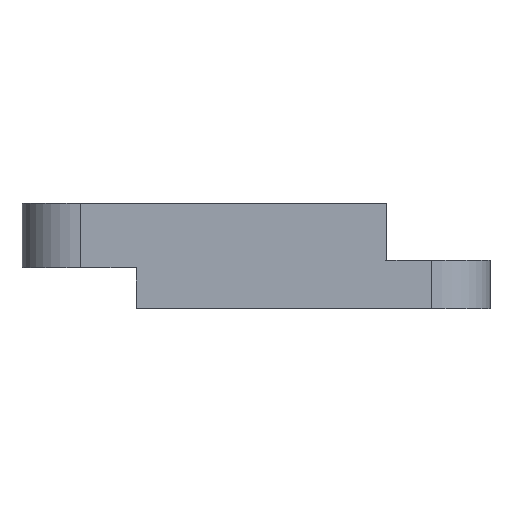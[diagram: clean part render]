
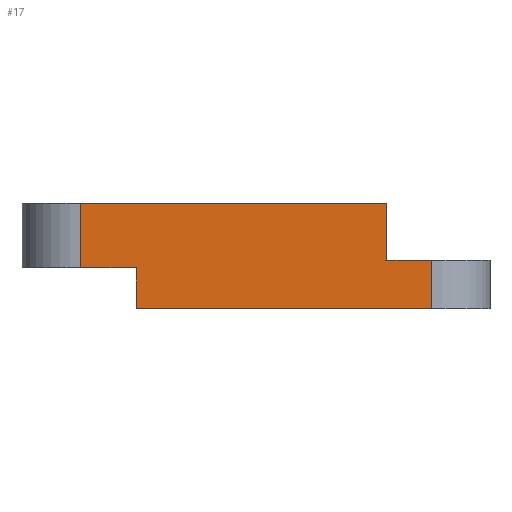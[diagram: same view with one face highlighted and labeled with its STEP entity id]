
A CAD part, left-side view. The second image highlights one B-rep face of the part: STEP entity #17.
In plain terms, the highlighted planar face has unit normal (-1, 0, 0).
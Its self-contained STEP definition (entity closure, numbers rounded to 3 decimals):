
#17 = ADVANCED_FACE('',(#18),#32,.F.);
#18 = FACE_BOUND('',#19,.F.);
#19 = EDGE_LOOP('',(#20,#55,#81,#107,#135,#163,#189,#215));
#20 = ORIENTED_EDGE('',*,*,#21,.F.);
#21 = EDGE_CURVE('',#22,#24,#26,.T.);
#22 = VERTEX_POINT('',#23);
#23 = CARTESIAN_POINT('',(-10.,-21.962,11.2));
#24 = VERTEX_POINT('',#25);
#25 = CARTESIAN_POINT('',(-10.,-11.488,11.2));
#26 = SURFACE_CURVE('',#27,(#31,#43),.PCURVE_S1.);
#27 = LINE('',#28,#29);
#28 = CARTESIAN_POINT('',(-10.,-25.488,11.2));
#29 = VECTOR('',#30,1.);
#30 = DIRECTION('',(0.,1.,0.));
#31 = PCURVE('',#32,#37);
#32 = PLANE('',#33);
#33 = AXIS2_PLACEMENT_3D('',#34,#35,#36);
#34 = CARTESIAN_POINT('',(-10.,-25.488,7.6));
#35 = DIRECTION('',(1.,0.,0.));
#36 = DIRECTION('',(0.,0.,1.));
#37 = DEFINITIONAL_REPRESENTATION('',(#38),#42);
#38 = LINE('',#39,#40);
#39 = CARTESIAN_POINT('',(3.6,0.));
#40 = VECTOR('',#41,1.);
#41 = DIRECTION('',(0.,-1.));
#42 = ( GEOMETRIC_REPRESENTATION_CONTEXT(2) 
PARAMETRIC_REPRESENTATION_CONTEXT() REPRESENTATION_CONTEXT('2D SPACE',''
  ) );
#43 = PCURVE('',#44,#49);
#44 = PLANE('',#45);
#45 = AXIS2_PLACEMENT_3D('',#46,#47,#48);
#46 = CARTESIAN_POINT('',(-10.,-25.488,11.2));
#47 = DIRECTION('',(0.,0.,1.));
#48 = DIRECTION('',(1.,0.,0.));
#49 = DEFINITIONAL_REPRESENTATION('',(#50),#54);
#50 = LINE('',#51,#52);
#51 = CARTESIAN_POINT('',(0.,0.));
#52 = VECTOR('',#53,1.);
#53 = DIRECTION('',(0.,1.));
#54 = ( GEOMETRIC_REPRESENTATION_CONTEXT(2) 
PARAMETRIC_REPRESENTATION_CONTEXT() REPRESENTATION_CONTEXT('2D SPACE',''
  ) );
#55 = ORIENTED_EDGE('',*,*,#56,.T.);
#56 = EDGE_CURVE('',#22,#57,#59,.T.);
#57 = VERTEX_POINT('',#58);
#58 = CARTESIAN_POINT('',(-10.,-21.962,9.25));
#59 = SURFACE_CURVE('',#60,(#64,#70),.PCURVE_S1.);
#60 = LINE('',#61,#62);
#61 = CARTESIAN_POINT('',(-10.,-21.962,9.25));
#62 = VECTOR('',#63,1.);
#63 = DIRECTION('',(-0.,-0.,-1.));
#64 = PCURVE('',#32,#65);
#65 = DEFINITIONAL_REPRESENTATION('',(#66),#69);
#66 = B_SPLINE_CURVE_WITH_KNOTS('',1,(#67,#68),.UNSPECIFIED.,.F.,.F.,(2,
    2),(-2.2,0.),.PIECEWISE_BEZIER_KNOTS.);
#67 = CARTESIAN_POINT('',(3.85,-3.526));
#68 = CARTESIAN_POINT('',(1.65,-3.526));
#69 = ( GEOMETRIC_REPRESENTATION_CONTEXT(2) 
PARAMETRIC_REPRESENTATION_CONTEXT() REPRESENTATION_CONTEXT('2D SPACE',''
  ) );
#70 = PCURVE('',#71,#76);
#71 = CYLINDRICAL_SURFACE('',#72,18.9);
#72 = AXIS2_PLACEMENT_3D('',#73,#74,#75);
#73 = CARTESIAN_POINT('',(0.,-38.,9.25));
#74 = DIRECTION('',(-0.,-0.,-1.));
#75 = DIRECTION('',(1.,0.,0.));
#76 = DEFINITIONAL_REPRESENTATION('',(#77),#80);
#77 = B_SPLINE_CURVE_WITH_KNOTS('',1,(#78,#79),.UNSPECIFIED.,.F.,.F.,(2,
    2),(-2.2,0.),.PIECEWISE_BEZIER_KNOTS.);
#78 = CARTESIAN_POINT('',(-2.128,-2.2));
#79 = CARTESIAN_POINT('',(-2.128,0.));
#80 = ( GEOMETRIC_REPRESENTATION_CONTEXT(2) 
PARAMETRIC_REPRESENTATION_CONTEXT() REPRESENTATION_CONTEXT('2D SPACE',''
  ) );
#81 = ORIENTED_EDGE('',*,*,#82,.T.);
#82 = EDGE_CURVE('',#57,#83,#85,.T.);
#83 = VERTEX_POINT('',#84);
#84 = CARTESIAN_POINT('',(-10.,-23.488,9.25));
#85 = SURFACE_CURVE('',#86,(#90,#96),.PCURVE_S1.);
#86 = LINE('',#87,#88);
#87 = CARTESIAN_POINT('',(-10.,-31.744,9.25));
#88 = VECTOR('',#89,1.);
#89 = DIRECTION('',(0.,-1.,0.));
#90 = PCURVE('',#32,#91);
#91 = DEFINITIONAL_REPRESENTATION('',(#92),#95);
#92 = B_SPLINE_CURVE_WITH_KNOTS('',1,(#93,#94),.UNSPECIFIED.,.F.,.F.,(2,
    2),(-12.644,-8.256),.PIECEWISE_BEZIER_KNOTS.);
#93 = CARTESIAN_POINT('',(1.65,-6.388));
#94 = CARTESIAN_POINT('',(1.65,-2.));
#95 = ( GEOMETRIC_REPRESENTATION_CONTEXT(2) 
PARAMETRIC_REPRESENTATION_CONTEXT() REPRESENTATION_CONTEXT('2D SPACE',''
  ) );
#96 = PCURVE('',#97,#102);
#97 = PLANE('',#98);
#98 = AXIS2_PLACEMENT_3D('',#99,#100,#101);
#99 = CARTESIAN_POINT('',(0.,-38.,9.25));
#100 = DIRECTION('',(0.,0.,1.));
#101 = DIRECTION('',(1.,0.,-0.));
#102 = DEFINITIONAL_REPRESENTATION('',(#103),#106);
#103 = B_SPLINE_CURVE_WITH_KNOTS('',1,(#104,#105),.UNSPECIFIED.,.F.,.F.,
  (2,2),(-12.644,-8.256),.PIECEWISE_BEZIER_KNOTS.);
#104 = CARTESIAN_POINT('',(-10.,18.9));
#105 = CARTESIAN_POINT('',(-10.,14.512));
#106 = ( GEOMETRIC_REPRESENTATION_CONTEXT(2) 
PARAMETRIC_REPRESENTATION_CONTEXT() REPRESENTATION_CONTEXT('2D SPACE',''
  ) );
#107 = ORIENTED_EDGE('',*,*,#108,.F.);
#108 = EDGE_CURVE('',#109,#83,#111,.T.);
#109 = VERTEX_POINT('',#110);
#110 = CARTESIAN_POINT('',(-10.,-23.488,7.6));
#111 = SURFACE_CURVE('',#112,(#116,#123),.PCURVE_S1.);
#112 = LINE('',#113,#114);
#113 = CARTESIAN_POINT('',(-10.,-23.488,7.6));
#114 = VECTOR('',#115,1.);
#115 = DIRECTION('',(0.,0.,1.));
#116 = PCURVE('',#32,#117);
#117 = DEFINITIONAL_REPRESENTATION('',(#118),#122);
#118 = LINE('',#119,#120);
#119 = CARTESIAN_POINT('',(0.,-2.));
#120 = VECTOR('',#121,1.);
#121 = DIRECTION('',(1.,0.));
#122 = ( GEOMETRIC_REPRESENTATION_CONTEXT(2) 
PARAMETRIC_REPRESENTATION_CONTEXT() REPRESENTATION_CONTEXT('2D SPACE',''
  ) );
#123 = PCURVE('',#124,#129);
#124 = CYLINDRICAL_SURFACE('',#125,2.);
#125 = AXIS2_PLACEMENT_3D('',#126,#127,#128);
#126 = CARTESIAN_POINT('',(-8.,-23.488,7.6));
#127 = DIRECTION('',(0.,0.,1.));
#128 = DIRECTION('',(-1.,-0.,0.));
#129 = DEFINITIONAL_REPRESENTATION('',(#130),#134);
#130 = LINE('',#131,#132);
#131 = CARTESIAN_POINT('',(0.,0.));
#132 = VECTOR('',#133,1.);
#133 = DIRECTION('',(0.,1.));
#134 = ( GEOMETRIC_REPRESENTATION_CONTEXT(2) 
PARAMETRIC_REPRESENTATION_CONTEXT() REPRESENTATION_CONTEXT('2D SPACE',''
  ) );
#135 = ORIENTED_EDGE('',*,*,#136,.T.);
#136 = EDGE_CURVE('',#109,#137,#139,.T.);
#137 = VERTEX_POINT('',#138);
#138 = CARTESIAN_POINT('',(-10.,-13.4,7.6));
#139 = SURFACE_CURVE('',#140,(#144,#151),.PCURVE_S1.);
#140 = LINE('',#141,#142);
#141 = CARTESIAN_POINT('',(-10.,-25.488,7.6));
#142 = VECTOR('',#143,1.);
#143 = DIRECTION('',(0.,1.,0.));
#144 = PCURVE('',#32,#145);
#145 = DEFINITIONAL_REPRESENTATION('',(#146),#150);
#146 = LINE('',#147,#148);
#147 = CARTESIAN_POINT('',(0.,0.));
#148 = VECTOR('',#149,1.);
#149 = DIRECTION('',(0.,-1.));
#150 = ( GEOMETRIC_REPRESENTATION_CONTEXT(2) 
PARAMETRIC_REPRESENTATION_CONTEXT() REPRESENTATION_CONTEXT('2D SPACE',''
  ) );
#151 = PCURVE('',#152,#157);
#152 = PLANE('',#153);
#153 = AXIS2_PLACEMENT_3D('',#154,#155,#156);
#154 = CARTESIAN_POINT('',(-10.,-25.488,7.6));
#155 = DIRECTION('',(0.,0.,1.));
#156 = DIRECTION('',(1.,0.,0.));
#157 = DEFINITIONAL_REPRESENTATION('',(#158),#162);
#158 = LINE('',#159,#160);
#159 = CARTESIAN_POINT('',(0.,0.));
#160 = VECTOR('',#161,1.);
#161 = DIRECTION('',(0.,1.));
#162 = ( GEOMETRIC_REPRESENTATION_CONTEXT(2) 
PARAMETRIC_REPRESENTATION_CONTEXT() REPRESENTATION_CONTEXT('2D SPACE',''
  ) );
#163 = ORIENTED_EDGE('',*,*,#164,.T.);
#164 = EDGE_CURVE('',#137,#165,#167,.T.);
#165 = VERTEX_POINT('',#166);
#166 = CARTESIAN_POINT('',(-10.,-13.4,9.));
#167 = SURFACE_CURVE('',#168,(#172,#178),.PCURVE_S1.);
#168 = LINE('',#169,#170);
#169 = CARTESIAN_POINT('',(-10.,-13.4,3.8));
#170 = VECTOR('',#171,1.);
#171 = DIRECTION('',(0.,0.,1.));
#172 = PCURVE('',#32,#173);
#173 = DEFINITIONAL_REPRESENTATION('',(#174),#177);
#174 = B_SPLINE_CURVE_WITH_KNOTS('',1,(#175,#176),.UNSPECIFIED.,.F.,.F.,
  (2,2),(3.8,5.2),.PIECEWISE_BEZIER_KNOTS.);
#175 = CARTESIAN_POINT('',(0.,-12.088));
#176 = CARTESIAN_POINT('',(1.4,-12.088));
#177 = ( GEOMETRIC_REPRESENTATION_CONTEXT(2) 
PARAMETRIC_REPRESENTATION_CONTEXT() REPRESENTATION_CONTEXT('2D SPACE',''
  ) );
#178 = PCURVE('',#179,#184);
#179 = PLANE('',#180);
#180 = AXIS2_PLACEMENT_3D('',#181,#182,#183);
#181 = CARTESIAN_POINT('',(-31.5,-13.4,0.));
#182 = DIRECTION('',(0.,1.,0.));
#183 = DIRECTION('',(0.,0.,1.));
#184 = DEFINITIONAL_REPRESENTATION('',(#185),#188);
#185 = B_SPLINE_CURVE_WITH_KNOTS('',1,(#186,#187),.UNSPECIFIED.,.F.,.F.,
  (2,2),(3.8,5.2),.PIECEWISE_BEZIER_KNOTS.);
#186 = CARTESIAN_POINT('',(7.6,21.5));
#187 = CARTESIAN_POINT('',(9.,21.5));
#188 = ( GEOMETRIC_REPRESENTATION_CONTEXT(2) 
PARAMETRIC_REPRESENTATION_CONTEXT() REPRESENTATION_CONTEXT('2D SPACE',''
  ) );
#189 = ORIENTED_EDGE('',*,*,#190,.F.);
#190 = EDGE_CURVE('',#191,#165,#193,.T.);
#191 = VERTEX_POINT('',#192);
#192 = CARTESIAN_POINT('',(-10.,-11.488,9.));
#193 = SURFACE_CURVE('',#194,(#198,#204),.PCURVE_S1.);
#194 = LINE('',#195,#196);
#195 = CARTESIAN_POINT('',(-10.,-19.444,9.));
#196 = VECTOR('',#197,1.);
#197 = DIRECTION('',(0.,-1.,0.));
#198 = PCURVE('',#32,#199);
#199 = DEFINITIONAL_REPRESENTATION('',(#200),#203);
#200 = B_SPLINE_CURVE_WITH_KNOTS('',1,(#201,#202),.UNSPECIFIED.,.F.,.F.,
  (2,2),(-7.956,-6.044),.PIECEWISE_BEZIER_KNOTS.);
#201 = CARTESIAN_POINT('',(1.4,-14.));
#202 = CARTESIAN_POINT('',(1.4,-12.088));
#203 = ( GEOMETRIC_REPRESENTATION_CONTEXT(2) 
PARAMETRIC_REPRESENTATION_CONTEXT() REPRESENTATION_CONTEXT('2D SPACE',''
  ) );
#204 = PCURVE('',#205,#210);
#205 = PLANE('',#206);
#206 = AXIS2_PLACEMENT_3D('',#207,#208,#209);
#207 = CARTESIAN_POINT('',(-31.5,-13.4,9.));
#208 = DIRECTION('',(0.,0.,1.));
#209 = DIRECTION('',(1.,0.,0.));
#210 = DEFINITIONAL_REPRESENTATION('',(#211),#214);
#211 = B_SPLINE_CURVE_WITH_KNOTS('',1,(#212,#213),.UNSPECIFIED.,.F.,.F.,
  (2,2),(-7.956,-6.044),.PIECEWISE_BEZIER_KNOTS.);
#212 = CARTESIAN_POINT('',(21.5,1.912));
#213 = CARTESIAN_POINT('',(21.5,0.));
#214 = ( GEOMETRIC_REPRESENTATION_CONTEXT(2) 
PARAMETRIC_REPRESENTATION_CONTEXT() REPRESENTATION_CONTEXT('2D SPACE',''
  ) );
#215 = ORIENTED_EDGE('',*,*,#216,.T.);
#216 = EDGE_CURVE('',#191,#24,#217,.T.);
#217 = SURFACE_CURVE('',#218,(#222,#229),.PCURVE_S1.);
#218 = LINE('',#219,#220);
#219 = CARTESIAN_POINT('',(-10.,-11.488,7.6));
#220 = VECTOR('',#221,1.);
#221 = DIRECTION('',(0.,0.,1.));
#222 = PCURVE('',#32,#223);
#223 = DEFINITIONAL_REPRESENTATION('',(#224),#228);
#224 = LINE('',#225,#226);
#225 = CARTESIAN_POINT('',(0.,-14.));
#226 = VECTOR('',#227,1.);
#227 = DIRECTION('',(1.,0.));
#228 = ( GEOMETRIC_REPRESENTATION_CONTEXT(2) 
PARAMETRIC_REPRESENTATION_CONTEXT() REPRESENTATION_CONTEXT('2D SPACE',''
  ) );
#229 = PCURVE('',#230,#235);
#230 = CYLINDRICAL_SURFACE('',#231,2.);
#231 = AXIS2_PLACEMENT_3D('',#232,#233,#234);
#232 = CARTESIAN_POINT('',(-8.,-11.488,7.6));
#233 = DIRECTION('',(0.,0.,1.));
#234 = DIRECTION('',(-1.,-0.,0.));
#235 = DEFINITIONAL_REPRESENTATION('',(#236),#240);
#236 = LINE('',#237,#238);
#237 = CARTESIAN_POINT('',(-0.,0.));
#238 = VECTOR('',#239,1.);
#239 = DIRECTION('',(-0.,1.));
#240 = ( GEOMETRIC_REPRESENTATION_CONTEXT(2) 
PARAMETRIC_REPRESENTATION_CONTEXT() REPRESENTATION_CONTEXT('2D SPACE',''
  ) );
